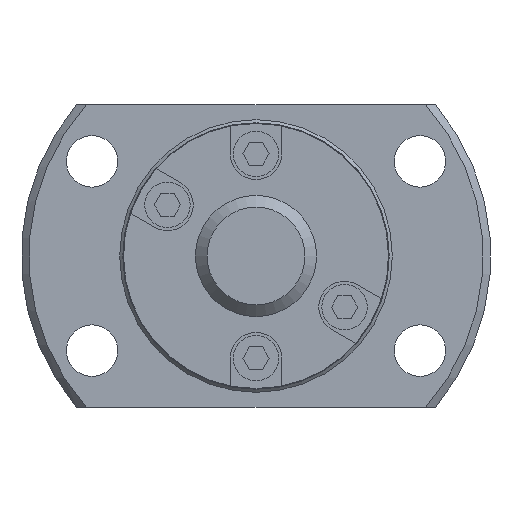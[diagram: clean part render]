
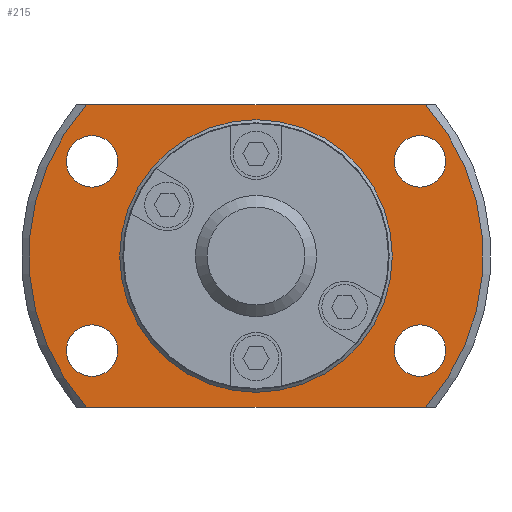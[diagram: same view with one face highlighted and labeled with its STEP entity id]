
A CAD part, left-side view. The second image highlights one B-rep face of the part: STEP entity #215.
In plain terms, the highlighted planar face has unit normal (-1, 0, 0).
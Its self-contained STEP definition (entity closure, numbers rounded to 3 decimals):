
#215 = ADVANCED_FACE( '', ( #427, #428, #429, #430, #431, #432 ), #433, .F. );
#427 = FACE_OUTER_BOUND( '', #763, .T. );
#428 = FACE_BOUND( '', #764, .T. );
#429 = FACE_BOUND( '', #765, .T. );
#430 = FACE_BOUND( '', #766, .T. );
#431 = FACE_BOUND( '', #767, .T. );
#432 = FACE_BOUND( '', #768, .T. );
#433 = PLANE( '', #769 );
#763 = EDGE_LOOP( '', ( #1334, #1335, #1336, #1337 ) );
#764 = EDGE_LOOP( '', ( #1338 ) );
#765 = EDGE_LOOP( '', ( #1339 ) );
#766 = EDGE_LOOP( '', ( #1340 ) );
#767 = EDGE_LOOP( '', ( #1341 ) );
#768 = EDGE_LOOP( '', ( #1342 ) );
#769 = AXIS2_PLACEMENT_3D( '', #1343, #1344, #1345 );
#1334 = ORIENTED_EDGE( '', *, *, #2026, .F. );
#1335 = ORIENTED_EDGE( '', *, *, #2167, .T. );
#1336 = ORIENTED_EDGE( '', *, *, #2172, .F. );
#1337 = ORIENTED_EDGE( '', *, *, #2020, .T. );
#1338 = ORIENTED_EDGE( '', *, *, #2158, .F. );
#1339 = ORIENTED_EDGE( '', *, *, #2160, .F. );
#1340 = ORIENTED_EDGE( '', *, *, #2162, .F. );
#1341 = ORIENTED_EDGE( '', *, *, #2164, .F. );
#1342 = ORIENTED_EDGE( '', *, *, #2173, .T. );
#1343 = CARTESIAN_POINT( '', ( 17., 8.85, 0. ) );
#1344 = DIRECTION( '', ( 1., 0., 0. ) );
#1345 = DIRECTION( '', ( 0., 0., -1. ) );
#2020 = EDGE_CURVE( '', #2336, #2334, #2337, .T. );
#2026 = EDGE_CURVE( '', #2347, #2334, #2348, .T. );
#2158 = EDGE_CURVE( '', #2588, #2588, #2589, .F. );
#2160 = EDGE_CURVE( '', #2592, #2592, #2593, .F. );
#2162 = EDGE_CURVE( '', #2596, #2596, #2597, .F. );
#2164 = EDGE_CURVE( '', #2600, #2600, #2601, .F. );
#2167 = EDGE_CURVE( '', #2347, #2605, #2607, .T. );
#2172 = EDGE_CURVE( '', #2336, #2605, #2615, .T. );
#2173 = EDGE_CURVE( '', #2616, #2616, #2617, .T. );
#2334 = VERTEX_POINT( '', #2861 );
#2336 = VERTEX_POINT( '', #2866 );
#2337 = LINE( '', #2867, #2868 );
#2347 = VERTEX_POINT( '', #2889 );
#2348 = CIRCLE( '', #2890, 15. );
#2588 = VERTEX_POINT( '', #3221 );
#2589 = CIRCLE( '', #3222, 1.7 );
#2592 = VERTEX_POINT( '', #3225 );
#2593 = CIRCLE( '', #3226, 1.7 );
#2596 = VERTEX_POINT( '', #3229 );
#2597 = CIRCLE( '', #3230, 1.7 );
#2600 = VERTEX_POINT( '', #3233 );
#2601 = CIRCLE( '', #3234, 1.7 );
#2605 = VERTEX_POINT( '', #3239 );
#2607 = LINE( '', #3244, #3245 );
#2615 = CIRCLE( '', #3261, 15. );
#2616 = VERTEX_POINT( '', #3262 );
#2617 = CIRCLE( '', #3263, 8.85 );
#2861 = CARTESIAN_POINT( '', ( 17., 11.18, 10. ) );
#2866 = CARTESIAN_POINT( '', ( 17., -11.18, 10. ) );
#2867 = CARTESIAN_POINT( '', ( 17., 8.85, 10. ) );
#2868 = VECTOR( '', #3630, 1000. );
#2889 = CARTESIAN_POINT( '', ( 17., 11.18, -10. ) );
#2890 = AXIS2_PLACEMENT_3D( '', #3633, #3634, #3635 );
#3221 = CARTESIAN_POINT( '', ( 17., -10.825, -7.95 ) );
#3222 = AXIS2_PLACEMENT_3D( '', #3850, #3851, #3852 );
#3225 = CARTESIAN_POINT( '', ( 17., -10.825, 4.55 ) );
#3226 = AXIS2_PLACEMENT_3D( '', #3856, #3857, #3858 );
#3229 = CARTESIAN_POINT( '', ( 17., 10.825, -7.95 ) );
#3230 = AXIS2_PLACEMENT_3D( '', #3862, #3863, #3864 );
#3233 = CARTESIAN_POINT( '', ( 17., 10.825, 4.55 ) );
#3234 = AXIS2_PLACEMENT_3D( '', #3868, #3869, #3870 );
#3239 = CARTESIAN_POINT( '', ( 17., -11.18, -10. ) );
#3244 = CARTESIAN_POINT( '', ( 17., 8.85, -10. ) );
#3245 = VECTOR( '', #3872, 1000. );
#3261 = AXIS2_PLACEMENT_3D( '', #3875, #3876, #3877 );
#3262 = CARTESIAN_POINT( '', ( 17., 0., -8.85 ) );
#3263 = AXIS2_PLACEMENT_3D( '', #3878, #3879, #3880 );
#3630 = DIRECTION( '', ( 0., 1., 0. ) );
#3633 = CARTESIAN_POINT( '', ( 17., 0., 0. ) );
#3634 = DIRECTION( '', ( 1., 0., 0. ) );
#3635 = DIRECTION( '', ( 0., 0., -1. ) );
#3850 = CARTESIAN_POINT( '', ( 17., -10.825, -6.25 ) );
#3851 = DIRECTION( '', ( 1., 0., 0. ) );
#3852 = DIRECTION( '', ( 0., 0., -1. ) );
#3856 = CARTESIAN_POINT( '', ( 17., -10.825, 6.25 ) );
#3857 = DIRECTION( '', ( 1., 0., 0. ) );
#3858 = DIRECTION( '', ( 0., 0., -1. ) );
#3862 = CARTESIAN_POINT( '', ( 17., 10.825, -6.25 ) );
#3863 = DIRECTION( '', ( 1., 0., 0. ) );
#3864 = DIRECTION( '', ( 0., 0., -1. ) );
#3868 = CARTESIAN_POINT( '', ( 17., 10.825, 6.25 ) );
#3869 = DIRECTION( '', ( 1., 0., 0. ) );
#3870 = DIRECTION( '', ( 0., 0., -1. ) );
#3872 = DIRECTION( '', ( 0., -1., 0. ) );
#3875 = CARTESIAN_POINT( '', ( 17., 0., 0. ) );
#3876 = DIRECTION( '', ( 1., 0., 0. ) );
#3877 = DIRECTION( '', ( 0., 0., -1. ) );
#3878 = CARTESIAN_POINT( '', ( 17., 0., 0. ) );
#3879 = DIRECTION( '', ( 1., 0., 0. ) );
#3880 = DIRECTION( '', ( 0., 0., -1. ) );
